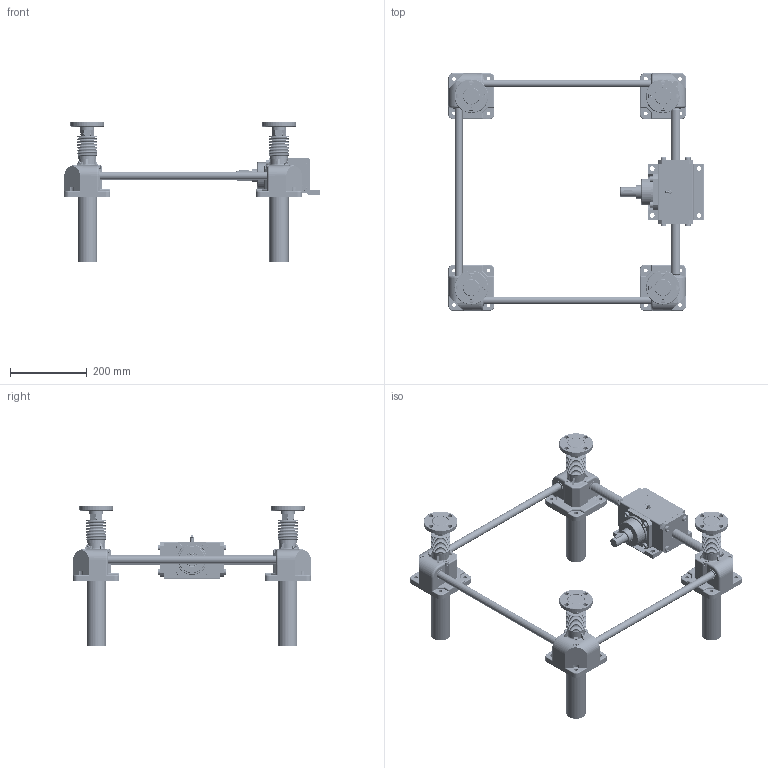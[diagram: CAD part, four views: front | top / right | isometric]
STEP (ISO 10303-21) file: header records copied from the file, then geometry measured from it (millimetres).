
FILE_DESCRIPTION(('STEP AP203'),'1');
FILE_NAME('SPB900FCJ-500x500-250-150ST_CAP.stp','2016-08-18T01:55:21',(' '),(' '),'Spatial InterOp 3D',' ',' ');
FILE_SCHEMA(('CONFIG_CONTROL_DESIGN'));
Length unit declared in the file: millimetre
Products named in the file (147): SPB900FCJ-500x500-250-150ST_CAP; Rack Gear(SP-900FC); Flange.1-Part; Flange.1; Joint.1; Nut.1; Flange.2-Part; Flange.2; Joint.2; Nut.2; Flange.3-Part; Flange.3; Joint.3; Nut.3; Flange.4-Part; Flange.4; Joint.4; Nut.4; Bellow(SP-900); Body.1-Part; Nipple; Bolt; Gear Box.1(Upper); Body_stand by; Gear Box.1(Lower); RJ05-4SCJ-610X600-100ST_CAP; LABEL-B.1; ___; 파트18; __ ; Body.2-Part; Gear Box.2(Upper); Gear Box.2(Lower); Body.3-Part; Gear Box.3(Upper); Gear Box.3(Lower); Body.4-Part; Gear Box.4(Upper); Gear Box.4(Lower); Cap.1-Part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
Assembly tree (150 placements, depth 6):
  SPB900FCJ-500x500-250-150ST_CAP
    Rack Gear(SP-900FC)  x4
    Flange.1-Part
      Flange.1
      Joint.1
      Nut.1
    Flange.2-Part
      Flange.2
      Joint.2
      Nut.2
    Flange.3-Part
      Flange.3
      Joint.3
      Nut.3
    Flange.4-Part
      Flange.4
      Joint.4
      Nut.4
    Bellow(SP-900)
    Bellow(SP-900)
    Bellow(SP-900)
    Bellow(SP-900)
    Body.1-Part
      Nipple
      Bolt
      Bolt
      Bolt
      Gear Box.1(Upper)
        Body_stand by
        Body_stand by
        Body_stand by
        Body_stand by
      Gear Box.1(Lower)
        Body_stand by
        Body_stand by
        Body_stand by
        Body_stand by
      __ 
        ___
          RJ05-4SCJ-610X600-100ST_CAP
            LABEL-B.1
          파트18
    Body.2-Part
      Nipple
      Bolt
      Bolt
      Bolt
      Gear Box.2(Upper)
        Body_stand by
        Body_stand by
        Body_stand by
        Body_stand by
      Gear Box.2(Lower)
        Body_stand by
        Body_stand by
        Body_stand by
        Body_stand by
      __ 
        ___
          RJ05-4SCJ-610X600-100ST_CAP
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Bounding box: 666.28 x 620.06 x 365 mm (x, y, z)
Volume: 3449551.4 mm3; surface area: 1705405 mm2
Topology: 143 solids, 3165 shells, 15635 faces, 51439 edges, 39119 vertices
Faces by surface type: plane 12102, cylinder 2362, torus 440, cone 343, bspline 184, sphere 100, extrusion 55, revolution 49
Full cylindrical faces by diameter (mm): 2.5 x8, 3.113 x4, 4.8 x1, 6 x5, 6.6 x4, 8 x36, 9.5 x12, 9.886 x1, 12 x20, 14 x12, 15 x12, 20 x5, 25 x10, 26 x2, 27 x4, 30 x60, 35 x1, 37 x5, 38 x4, 40 x5, 41 x4, 41.1 x4, 41.5 x4, 42 x5, 44 x4, 44.5 x4, 45 x9, 47 x4, 50 x4, 52 x2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
Entity records: 561321 total; most frequent: CARTESIAN_POINT 149827, DIRECTION 78883, ORIENTED_EDGE 78054, EDGE_CURVE 46825, VECTOR 37486, LINE 37431, VERTEX_POINT 36602, AXIS2_PLACEMENT_3D 20674
